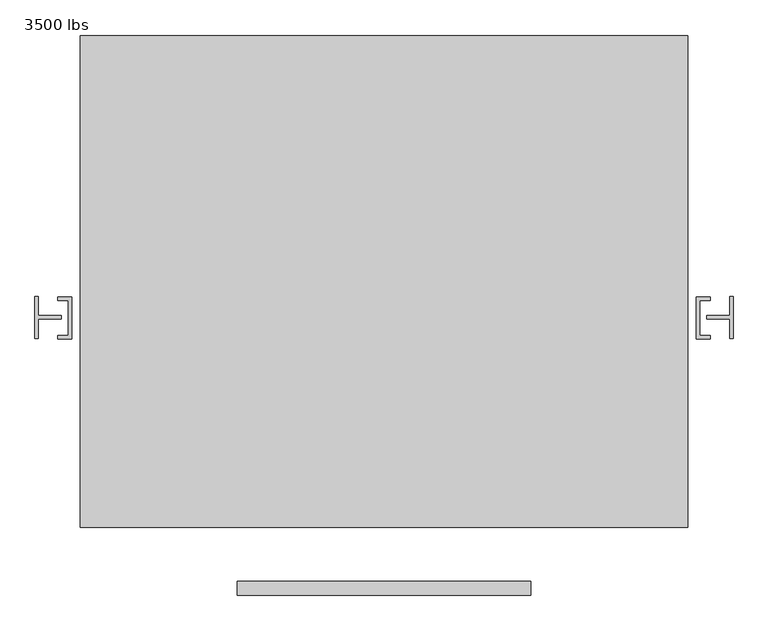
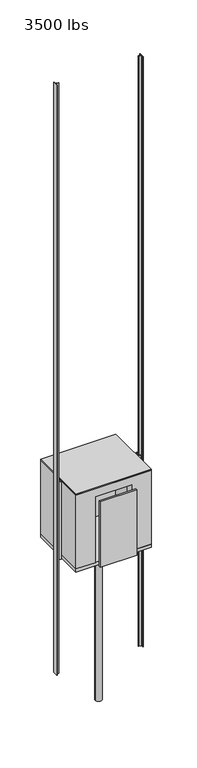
"""IFC4 building model written with IfcOpenShell, lengths in millimetres: proxy geometry, Elevator-Hydraulic[1] : 3500 lbs."""

from ifc_helpers import new_model, si_unit, point, frame, frame_2d, origin, origin_with_axes, place, context, project, spatial, polyline, circle_curve, trimmed, segment, composite_curve, outline, extrude, faceted_brep, source, transform, mapped, element, save


def proxy_3500_lbs_8e23d717(model_context):
    return source(origin(), model_context, "Body", "SolidModel", [
        extrude(outline(polyline([(540.8469965, -956.0281737), (540.8469965, -1006.8281737), (-525.9530035, -1006.8281737), (-525.9530035, -956.0281737), (540.8469965, -956.0281737)])), frame((0.0, 0.0, 3657.6), z_axis=(0.0, 0.0, 1.0), x_axis=(1.0, 0.0, 0.0)), (0.0, 0.0, 1.0), 2032.0),
        extrude(outline(polyline([(1112.3469965, 1031.5218263), (1112.3469965, -759.1781737), (-1097.4530035, -759.1781737), (-1097.4530035, 1031.5218263), (1112.3469965, 1031.5218263)])), frame((0.0, 0.0, 5943.6), z_axis=(0.0, 0.0, 1.0), x_axis=(1.0, 0.0, 0.0)), (0.0, 0.0, 1.0), 25.4),
        extrude(outline(composite_curve([segment(trimmed(circle_curve(frame_2d((7.4469965, 2.8218263)), 101.6), [point((-94.1530035, 2.8218263))], [point((109.0469965, 2.8218263))], False, "CARTESIAN"), True, "CONTINUOUS"), segment(trimmed(circle_curve(frame_2d((7.4469965, 2.8218263)), 101.6), [point((109.0469965, 2.8218263))], [point((-94.1530035, 2.8218263))], False, "CARTESIAN"), True, "CONTINUOUS")], self_intersect=False)), frame((0.0, 0.0, -1219.2), z_axis=(0.0, 0.0, 1.0), x_axis=(1.0, 0.0, 0.0)), (0.0, 0.0, 1.0), 4775.2),
        faceted_brep([(1112.3469965, 1031.5218263, 5943.6), (-1097.4530035, 1031.5218263, 5943.6), (-1097.4530035, -759.1781737, 5943.6), (1112.3469965, -759.1781737, 5943.6), (1074.2469965, 993.4218263, 5943.6), (1074.2469965, -530.5781737, 5943.6), (-1059.3530035, -530.5781737, 5943.6), (-1059.3530035, 993.4218263, 5943.6), (1074.2469965, 993.4218263, 3657.6), (-1059.3530035, 993.4218263, 3657.6), (-1059.3530035, -530.5781737, 3657.6), (-525.9530035, -530.5781737, 3657.6), (-525.9530035, -759.1781737, 3657.6), (-1097.4530035, -759.1781737, 3657.6), (-1097.4530035, 1031.5218263, 3657.6), (1112.3469965, 1031.5218263, 3657.6), (1112.3469965, -759.1781737, 3657.6), (540.8469965, -759.1781737, 3657.6), (540.8469965, -530.5781737, 3657.6), (1074.2469965, -530.5781737, 3657.6), (540.8469965, -530.5781737, 5689.6), (-525.9530035, -530.5781737, 5689.6), (-525.9530035, -759.1781737, 5689.6), (540.8469965, -759.1781737, 5689.6)], [[[0, 1, 2, 3], [4, 5, 6, 7]], [[8, 9, 10, 11, 12, 13, 14, 15, 16, 17, 18, 19]], [[5, 4, 8, 19]], [[6, 5, 19, 18, 20, 21, 11, 10]], [[7, 6, 10, 9]], [[4, 7, 9, 8]], [[1, 0, 15, 14]], [[2, 1, 14, 13]], [[3, 2, 13, 12, 22, 23, 17, 16]], [[0, 3, 16, 15]], [[22, 21, 20, 23]], [[21, 22, 12, 11]], [[23, 20, 18, 17]]]),
        extrude(outline(polyline([(1112.3469965, 1031.5218263), (1112.3469965, -759.1781737), (-1097.4530035, -759.1781737), (-1097.4530035, 1031.5218263), (1112.3469965, 1031.5218263)])), frame((0.0, 0.0, 3556.0), z_axis=(0.0, 0.0, 1.0), x_axis=(1.0, 0.0, 0.0)), (0.0, 0.0, 1.0), 101.6),
        extrude(outline(polyline([(-1129.2030035, 79.0218263), (-1129.2030035, -73.3781737), (-1180.0030035, -73.3781737), (-1180.0030035, -60.6781737), (-1141.9030035, -60.6781737), (-1141.9030035, 66.3218263), (-1180.0030035, 66.3218263), (-1180.0030035, 79.0218263), (-1129.2030035, 79.0218263)])), frame((0.0, 0.0, 3556.0), z_axis=(0.0, 0.0, 1.0), x_axis=(1.0, 0.0, 0.0)), (0.0, 0.0, 1.0), 2413.0),
        extrude(outline(polyline([(1144.0969965, 79.0218263), (1194.8969965, 79.0218263), (1194.8969965, 66.3218263), (1156.7969965, 66.3218263), (1156.7969965, -60.6781737), (1194.8969965, -60.6781737), (1194.8969965, -73.3781737), (1144.0969965, -73.3781737), (1144.0969965, 79.0218263)])), frame((0.0, 0.0, 3556.0), z_axis=(0.0, 0.0, 1.0), x_axis=(1.0, 0.0, 0.0)), (0.0, 0.0, 1.0), 2413.0),
        extrude(outline(polyline([(-1249.8530035, 79.0218263), (-1249.8530035, 9.1718263), (-1167.3030035, 9.1718263), (-1167.3030035, -3.5281737), (-1249.8530035, -3.5281737), (-1249.8530035, -73.3781737), (-1262.5530035, -73.3781737), (-1262.5530035, 79.0218263), (-1249.8530035, 79.0218263)])), origin_with_axes(), (0.0, 0.0, 1.0), 18288.0),
        extrude(outline(polyline([(1264.7469965, 79.0218263), (1277.4469965, 79.0218263), (1277.4469965, -73.3781737), (1264.7469965, -73.3781737), (1264.7469965, -3.5281737), (1182.1969965, -3.5281737), (1182.1969965, 9.1718263), (1264.7469965, 9.1718263), (1264.7469965, 79.0218263)])), origin_with_axes(), (0.0, 0.0, 1.0), 18288.0),
    ])


if __name__ == "__main__":
    model = new_model("IFC4")
    model_context = context("Model", 3, world=origin())
    ifc_project = project(units=[si_unit("LENGTHUNIT", "METRE", prefix="MILLI")], contexts=[model_context])
    site = spatial("IfcSite", under=ifc_project)
    building = spatial("IfcBuilding", under=site)
    placement = place(None, origin())
    proxy_3500_lbs_shape = proxy_3500_lbs_8e23d717(model_context)
    element("IfcBuildingElementProxy", 1, Name="Elevator-Hydraulic[1] : 3500 lbs", ObjectType="Elevator-Hydraulic[1] : 3500 lbs", at=placement, inside=building, context=model_context, shape_type="MappedRepresentation", body=[
        mapped(proxy_3500_lbs_shape, transform((0.0, 0.0, 0.0), x_axis=(1.0, 0.0, 0.0), y_axis=(0.0, 1.0, 0.0), z_axis=(0.0, 0.0, 1.0))),
    ])
    save(model, "model.ifc")
